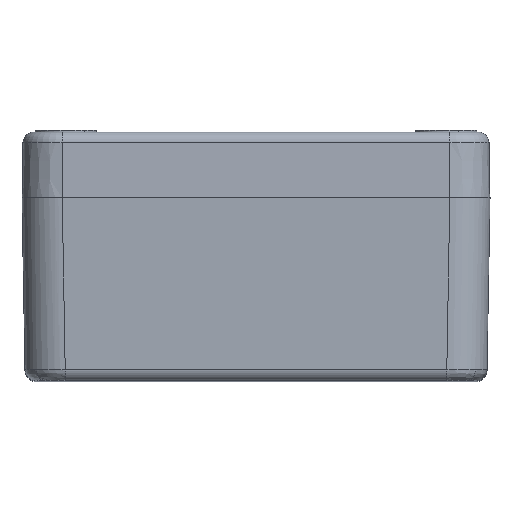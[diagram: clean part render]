
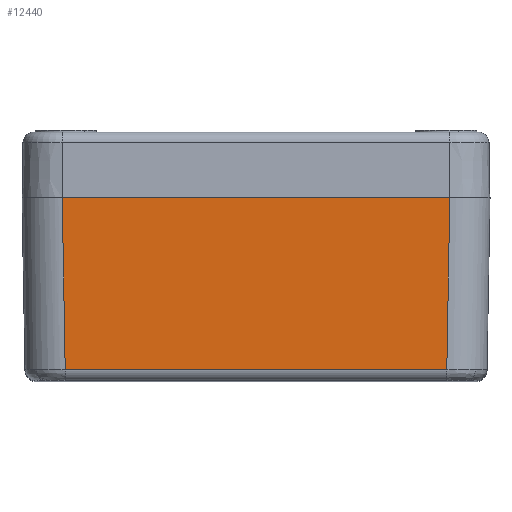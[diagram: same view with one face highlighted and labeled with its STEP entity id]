
A CAD part, top view. The second image highlights one B-rep face of the part: STEP entity #12440.
In plain terms, the highlighted planar face has unit normal (0, -0.018, 1).
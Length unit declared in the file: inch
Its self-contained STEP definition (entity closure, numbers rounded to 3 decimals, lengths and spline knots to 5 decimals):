
#101 = EDGE_CURVE ( 'NONE', #960, #15660, #3219, .T. ) ;
#133 = CARTESIAN_POINT ( 'NONE',  ( -1.04334, 0., 1.92913 ) ) ;
#383 = PLANE ( 'NONE',  #11552 ) ;
#602 = EDGE_CURVE ( 'NONE', #960, #2096, #13107, .T. ) ;
#960 = VERTEX_POINT ( 'NONE', #133 ) ;
#1666 = EDGE_CURVE ( 'NONE', #15660, #3670, #5100, .T. ) ;
#2096 = VERTEX_POINT ( 'NONE', #14848 ) ;
#2689 = ORIENTED_EDGE ( 'NONE', *, *, #1666, .T. ) ;
#3219 = LINE ( 'NONE', #15565, #16582 ) ;
#3262 = DIRECTION ( 'NONE',  ( 0.017, -1., -0.017 ) ) ;
#3670 = VERTEX_POINT ( 'NONE', #6792 ) ;
#3890 = CARTESIAN_POINT ( 'NONE',  ( -1.02723, -0.92284, 1.91303 ) ) ;
#4510 = CARTESIAN_POINT ( 'NONE',  ( 0., 0., 1.92913 ) ) ;
#4904 = DIRECTION ( 'NONE',  ( 0.017, 1., 0.017 ) ) ;
#5100 = LINE ( 'NONE', #9686, #13955 ) ;
#5713 = DIRECTION ( 'NONE',  ( 1., 0., 0. ) ) ;
#6107 = FACE_OUTER_BOUND ( 'NONE', #10885, .T. ) ;
#6112 = DIRECTION ( 'NONE',  ( 0., -0.017, 1. ) ) ;
#6792 = CARTESIAN_POINT ( 'NONE',  ( 1.02723, -0.92284, 1.91303 ) ) ;
#9398 = ORIENTED_EDGE ( 'NONE', *, *, #101, .T. ) ;
#9686 = CARTESIAN_POINT ( 'NONE',  ( 0., -0.92284, 1.91303 ) ) ;
#10334 = VECTOR ( 'NONE', #5713, 39.37008 ) ;
#10477 = ORIENTED_EDGE ( 'NONE', *, *, #15446, .T. ) ;
#10885 = EDGE_LOOP ( 'NONE', ( #9398, #2689, #10477, #17233 ) ) ;
#11176 = VECTOR ( 'NONE', #4904, 39.37008 ) ;
#11552 = AXIS2_PLACEMENT_3D ( 'NONE', #14361, #6112, #16883 ) ;
#12440 = ADVANCED_FACE ( 'NONE', ( #6107 ), #383, .T. ) ;
#12499 = DIRECTION ( 'NONE',  ( 1., 0., 0. ) ) ;
#13107 = LINE ( 'NONE', #4510, #10334 ) ;
#13955 = VECTOR ( 'NONE', #12499, 39.37008 ) ;
#13976 = LINE ( 'NONE', #17448, #11176 ) ;
#14361 = CARTESIAN_POINT ( 'NONE',  ( 0., 0., 1.92913 ) ) ;
#14848 = CARTESIAN_POINT ( 'NONE',  ( 1.04334, 0., 1.92913 ) ) ;
#15446 = EDGE_CURVE ( 'NONE', #3670, #2096, #13976, .T. ) ;
#15565 = CARTESIAN_POINT ( 'NONE',  ( -1.04302, -0.0182, 1.92882 ) ) ;
#15660 = VERTEX_POINT ( 'NONE', #3890 ) ;
#16582 = VECTOR ( 'NONE', #3262, 39.37008 ) ;
#16883 = DIRECTION ( 'NONE',  ( 0., -1., -0.017 ) ) ;
#17233 = ORIENTED_EDGE ( 'NONE', *, *, #602, .F. ) ;
#17448 = CARTESIAN_POINT ( 'NONE',  ( 1.04302, -0.0182, 1.92882 ) ) ;
